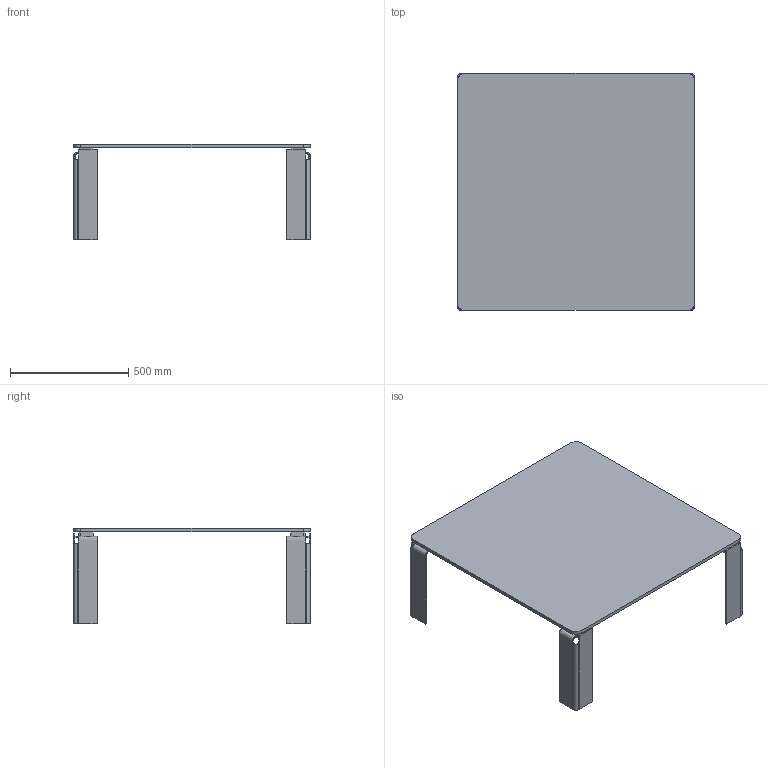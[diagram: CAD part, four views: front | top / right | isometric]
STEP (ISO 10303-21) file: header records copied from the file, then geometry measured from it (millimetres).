
FILE_DESCRIPTION(/* description */ (''),/* implementation_level */ '2;1');
FILE_NAME(/* name */ '106AC - Newton 100x100 H40 acciaio',/* time_stamp */ '2012-06-20T15:06:08+02:00',/* author */ (''),/* organization */ (''),/* preprocessor_version */ 'ST-DEVELOPER v10',/* originating_system */ '',/* authorisation */ '');
FILE_SCHEMA (('CONFIG_CONTROL_DESIGN'));
Length unit declared in the file: millimetre
Products named in the file (1): 1
Bounding box: 1000 x 1000 x 402 mm (x, y, z)
Volume: 17076605.8 mm3; surface area: 2754721 mm2
Topology: 9 solids, 9 shells, 158 faces, 396 edges, 248 vertices
Faces by surface type: bspline 92, plane 66
Entity records: 5144 total; most frequent: CARTESIAN_POINT 2636, ORIENTED_EDGE 792, EDGE_CURVE 396, VERTEX_POINT 248, B_SPLINE_CURVE_WITH_KNOTS 212, EDGE_LOOP 190, ADVANCED_FACE 158, FACE_OUTER_BOUND 158
